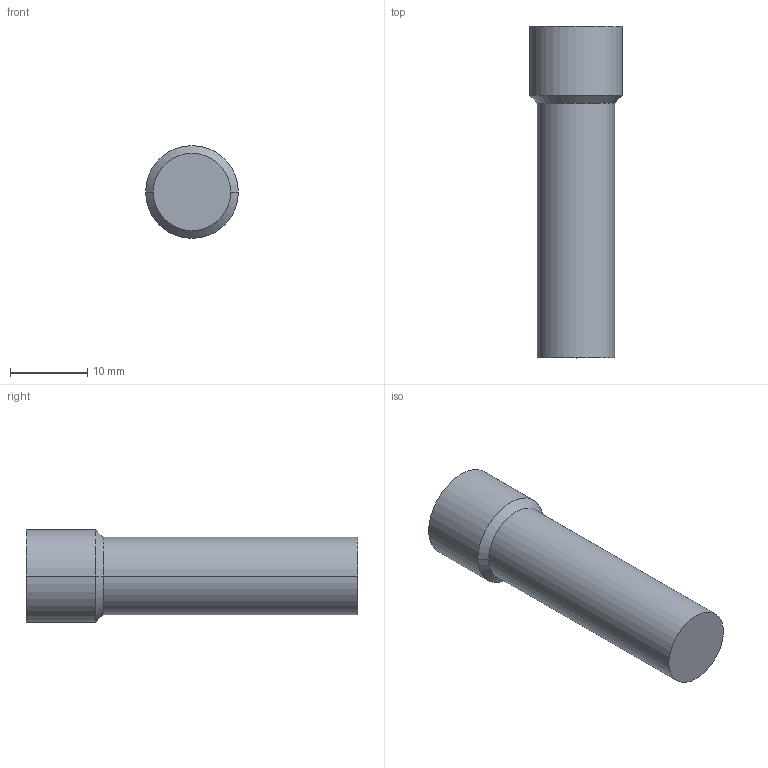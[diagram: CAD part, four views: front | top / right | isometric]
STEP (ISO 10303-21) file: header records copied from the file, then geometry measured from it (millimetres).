
FILE_DESCRIPTION( ( '' ), '1' );
FILE_NAME( 'G:/SMC狟婥/KPP-10.stp', '2023-03-08T05:54:24', ( '' ), ( '' ), ' ', ' ', ' ' );
FILE_SCHEMA( ( 'CONFIG_CONTROL_DESIGN' ) );
Length unit declared in the file: millimetre
Products named in the file (1): 1
Bounding box: 12 x 43 x 12 mm (x, y, z)
Volume: 3705 mm3; surface area: 1616.5 mm2
Topology: 1 solids, 1 shells, 8 faces, 14 edges, 8 vertices
Faces by surface type: cylinder 4, cone 2, plane 2
Entity records: 238 total; most frequent: DIRECTION 40, CARTESIAN_POINT 31, ORIENTED_EDGE 28, AXIS2_PLACEMENT_3D 17, EDGE_CURVE 14, ADVANCED_FACE 8, FACE_OUTER_BOUND 8, EDGE_LOOP 8
